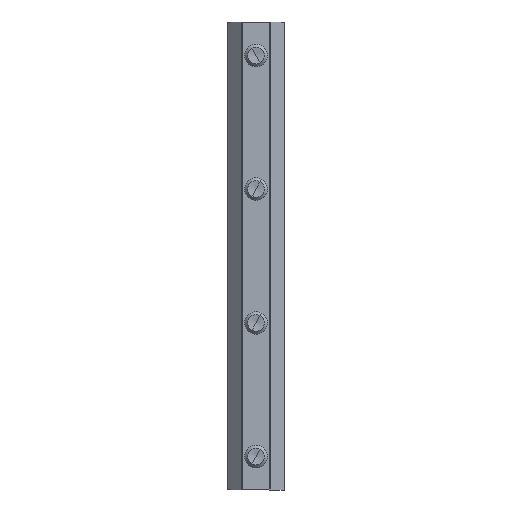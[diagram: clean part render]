
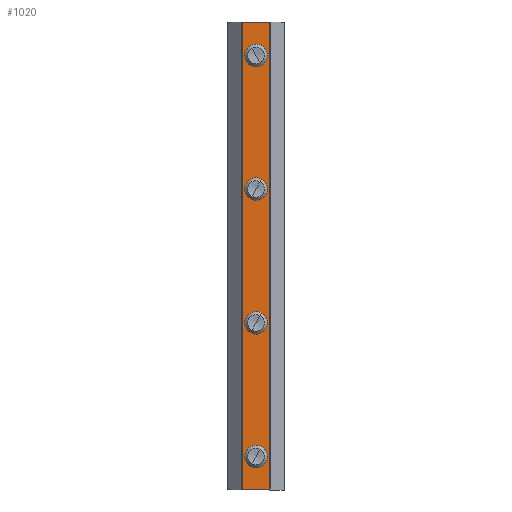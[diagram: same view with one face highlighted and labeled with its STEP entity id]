
A CAD part, left-side view. The second image highlights one B-rep face of the part: STEP entity #1020.
In plain terms, the highlighted planar face has unit normal (-1, 0, 0).
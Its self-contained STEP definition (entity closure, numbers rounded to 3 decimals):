
#11 = VERTEX_POINT ( 'NONE', #1704 ) ;
#14 = AXIS2_PLACEMENT_3D ( 'NONE', #1329, #1352, #1105 ) ;
#54 = AXIS2_PLACEMENT_3D ( 'NONE', #2348, #1146, #568 ) ;
#108 = PLANE ( 'NONE',  #1197 ) ;
#183 = DIRECTION ( 'NONE',  ( 0., -1., 0. ) ) ;
#219 = CARTESIAN_POINT ( 'NONE',  ( -9.5, -4.176, -70. ) ) ;
#220 = AXIS2_PLACEMENT_3D ( 'NONE', #1742, #2344, #2137 ) ;
#228 = EDGE_LOOP ( 'NONE', ( #1060, #1790 ) ) ;
#235 = EDGE_CURVE ( 'NONE', #890, #1332, #2361, .T. ) ;
#245 = EDGE_LOOP ( 'NONE', ( #1299, #315, #1696, #427 ) ) ;
#278 = EDGE_LOOP ( 'NONE', ( #2092, #1033 ) ) ;
#289 = ORIENTED_EDGE ( 'NONE', *, *, #1026, .T. ) ;
#303 = VERTEX_POINT ( 'NONE', #2341 ) ;
#315 = ORIENTED_EDGE ( 'NONE', *, *, #2319, .F. ) ;
#351 = DIRECTION ( 'NONE',  ( 0., 1., 0. ) ) ;
#365 = DIRECTION ( 'NONE',  ( 0., 1., 0. ) ) ;
#391 = ORIENTED_EDGE ( 'NONE', *, *, #1229, .T. ) ;
#422 = CIRCLE ( 'NONE', #54, 3.4 ) ;
#427 = ORIENTED_EDGE ( 'NONE', *, *, #2442, .T. ) ;
#478 = CARTESIAN_POINT ( 'NONE',  ( -9.5, -4.176, 70. ) ) ;
#483 = DIRECTION ( 'NONE',  ( 1., 0., 0. ) ) ;
#553 = CARTESIAN_POINT ( 'NONE',  ( -9.5, 0., -20. ) ) ;
#568 = DIRECTION ( 'NONE',  ( 0., 1., 0. ) ) ;
#624 = AXIS2_PLACEMENT_3D ( 'NONE', #915, #1558, #365 ) ;
#652 = VERTEX_POINT ( 'NONE', #701 ) ;
#667 = VECTOR ( 'NONE', #183, 1000. ) ;
#676 = LINE ( 'NONE', #478, #1985 ) ;
#684 = CARTESIAN_POINT ( 'NONE',  ( -9.5, 0., 20. ) ) ;
#696 = FACE_BOUND ( 'NONE', #228, .T. ) ;
#701 = CARTESIAN_POINT ( 'NONE',  ( -9.5, 0., -23.4 ) ) ;
#712 = FACE_BOUND ( 'NONE', #278, .T. ) ;
#713 = LINE ( 'NONE', #1484, #1157 ) ;
#759 = ORIENTED_EDGE ( 'NONE', *, *, #2527, .T. ) ;
#771 = DIRECTION ( 'NONE',  ( 0., -1., 0. ) ) ;
#782 = VERTEX_POINT ( 'NONE', #1718 ) ;
#826 = CIRCLE ( 'NONE', #14, 3.4 ) ;
#836 = CARTESIAN_POINT ( 'NONE',  ( -9.5, 0., 23.4 ) ) ;
#838 = CARTESIAN_POINT ( 'NONE',  ( -9.5, 0., 16.6 ) ) ;
#859 = CIRCLE ( 'NONE', #1518, 3.4 ) ;
#867 = VERTEX_POINT ( 'NONE', #1806 ) ;
#890 = VERTEX_POINT ( 'NONE', #838 ) ;
#915 = CARTESIAN_POINT ( 'NONE',  ( -9.5, 0., -20. ) ) ;
#943 = CIRCLE ( 'NONE', #1861, 3.4 ) ;
#951 = CIRCLE ( 'NONE', #624, 3.4 ) ;
#1020 = ADVANCED_FACE ( 'NONE', ( #696, #2033, #712, #1262, #1080 ), #108, .F. ) ;
#1026 = EDGE_CURVE ( 'NONE', #1332, #890, #1486, .T. ) ;
#1033 = ORIENTED_EDGE ( 'NONE', *, *, #1551, .T. ) ;
#1038 = CARTESIAN_POINT ( 'NONE',  ( -9.5, -4.176, 70. ) ) ;
#1060 = ORIENTED_EDGE ( 'NONE', *, *, #1580, .T. ) ;
#1075 = DIRECTION ( 'NONE',  ( 0., 1., 0. ) ) ;
#1080 = FACE_OUTER_BOUND ( 'NONE', #245, .T. ) ;
#1105 = DIRECTION ( 'NONE',  ( 0., 1., 0. ) ) ;
#1117 = DIRECTION ( 'NONE',  ( 1., 0., 0. ) ) ;
#1122 = DIRECTION ( 'NONE',  ( 0., 0., -1. ) ) ;
#1134 = EDGE_CURVE ( 'NONE', #652, #11, #951, .T. ) ;
#1139 = EDGE_CURVE ( 'NONE', #1255, #1423, #2323, .T. ) ;
#1146 = DIRECTION ( 'NONE',  ( 1., 0., 0. ) ) ;
#1157 = VECTOR ( 'NONE', #1122, 1000. ) ;
#1161 = DIRECTION ( 'NONE',  ( 0., 1., 0. ) ) ;
#1197 = AXIS2_PLACEMENT_3D ( 'NONE', #2075, #2266, #1277 ) ;
#1229 = EDGE_CURVE ( 'NONE', #1827, #867, #826, .T. ) ;
#1231 = LINE ( 'NONE', #1562, #2318 ) ;
#1238 = AXIS2_PLACEMENT_3D ( 'NONE', #684, #2058, #1664 ) ;
#1255 = VERTEX_POINT ( 'NONE', #1783 ) ;
#1262 = FACE_BOUND ( 'NONE', #1701, .T. ) ;
#1277 = DIRECTION ( 'NONE',  ( 0., 1., 0. ) ) ;
#1298 = CARTESIAN_POINT ( 'NONE',  ( -9.5, 0., 60. ) ) ;
#1299 = ORIENTED_EDGE ( 'NONE', *, *, #1925, .T. ) ;
#1313 = CARTESIAN_POINT ( 'NONE',  ( -9.5, 4.176, 70. ) ) ;
#1329 = CARTESIAN_POINT ( 'NONE',  ( -9.5, 0., -60. ) ) ;
#1332 = VERTEX_POINT ( 'NONE', #836 ) ;
#1352 = DIRECTION ( 'NONE',  ( 1., 0., 0. ) ) ;
#1423 = VERTEX_POINT ( 'NONE', #1038 ) ;
#1466 = VERTEX_POINT ( 'NONE', #2042 ) ;
#1478 = CIRCLE ( 'NONE', #220, 3.4 ) ;
#1484 = CARTESIAN_POINT ( 'NONE',  ( -9.5, 4.176, 70. ) ) ;
#1486 = CIRCLE ( 'NONE', #1238, 3.4 ) ;
#1518 = AXIS2_PLACEMENT_3D ( 'NONE', #553, #1117, #1161 ) ;
#1551 = EDGE_CURVE ( 'NONE', #11, #652, #859, .T. ) ;
#1558 = DIRECTION ( 'NONE',  ( 1., 0., 0. ) ) ;
#1562 = CARTESIAN_POINT ( 'NONE',  ( -9.5, 4.176, -70. ) ) ;
#1580 = EDGE_CURVE ( 'NONE', #303, #782, #1478, .T. ) ;
#1584 = EDGE_CURVE ( 'NONE', #782, #303, #943, .T. ) ;
#1664 = DIRECTION ( 'NONE',  ( 0., 1., 0. ) ) ;
#1696 = ORIENTED_EDGE ( 'NONE', *, *, #1139, .F. ) ;
#1699 = EDGE_LOOP ( 'NONE', ( #1971, #289 ) ) ;
#1701 = EDGE_LOOP ( 'NONE', ( #391, #759 ) ) ;
#1704 = CARTESIAN_POINT ( 'NONE',  ( -9.5, 0., -16.6 ) ) ;
#1718 = CARTESIAN_POINT ( 'NONE',  ( -9.5, 0., 63.4 ) ) ;
#1742 = CARTESIAN_POINT ( 'NONE',  ( -9.5, 0., 60. ) ) ;
#1783 = CARTESIAN_POINT ( 'NONE',  ( -9.5, 4.176, 70. ) ) ;
#1790 = ORIENTED_EDGE ( 'NONE', *, *, #1584, .T. ) ;
#1806 = CARTESIAN_POINT ( 'NONE',  ( -9.5, 0., -56.6 ) ) ;
#1827 = VERTEX_POINT ( 'NONE', #2012 ) ;
#1861 = AXIS2_PLACEMENT_3D ( 'NONE', #1298, #2317, #351 ) ;
#1878 = CARTESIAN_POINT ( 'NONE',  ( -9.5, 0., 20. ) ) ;
#1925 = EDGE_CURVE ( 'NONE', #1466, #2167, #1231, .T. ) ;
#1971 = ORIENTED_EDGE ( 'NONE', *, *, #235, .T. ) ;
#1985 = VECTOR ( 'NONE', #2059, 1000. ) ;
#2012 = CARTESIAN_POINT ( 'NONE',  ( -9.5, 0., -63.4 ) ) ;
#2033 = FACE_BOUND ( 'NONE', #1699, .T. ) ;
#2042 = CARTESIAN_POINT ( 'NONE',  ( -9.5, 4.176, -70. ) ) ;
#2058 = DIRECTION ( 'NONE',  ( 1., 0., 0. ) ) ;
#2059 = DIRECTION ( 'NONE',  ( 0., 0., -1. ) ) ;
#2075 = CARTESIAN_POINT ( 'NONE',  ( -9.5, 4.176, 70. ) ) ;
#2092 = ORIENTED_EDGE ( 'NONE', *, *, #1134, .T. ) ;
#2137 = DIRECTION ( 'NONE',  ( 0., 1., 0. ) ) ;
#2167 = VERTEX_POINT ( 'NONE', #219 ) ;
#2266 = DIRECTION ( 'NONE',  ( 1., 0., 0. ) ) ;
#2317 = DIRECTION ( 'NONE',  ( 1., 0., 0. ) ) ;
#2318 = VECTOR ( 'NONE', #771, 1000. ) ;
#2319 = EDGE_CURVE ( 'NONE', #1423, #2167, #676, .T. ) ;
#2323 = LINE ( 'NONE', #1313, #667 ) ;
#2341 = CARTESIAN_POINT ( 'NONE',  ( -9.5, 0., 56.6 ) ) ;
#2344 = DIRECTION ( 'NONE',  ( 1., 0., 0. ) ) ;
#2348 = CARTESIAN_POINT ( 'NONE',  ( -9.5, 0., -60. ) ) ;
#2361 = CIRCLE ( 'NONE', #2521, 3.4 ) ;
#2442 = EDGE_CURVE ( 'NONE', #1255, #1466, #713, .T. ) ;
#2521 = AXIS2_PLACEMENT_3D ( 'NONE', #1878, #483, #1075 ) ;
#2527 = EDGE_CURVE ( 'NONE', #867, #1827, #422, .T. ) ;
